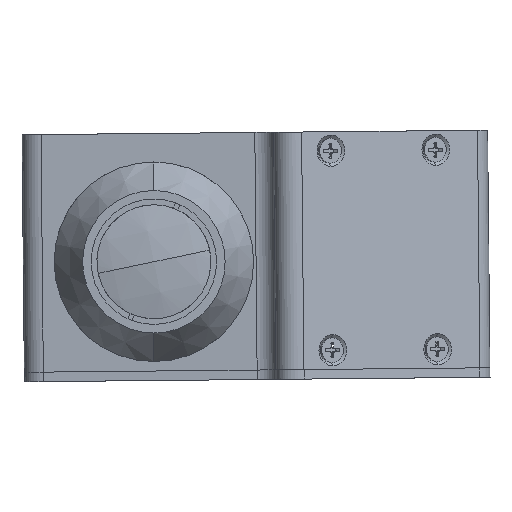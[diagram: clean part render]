
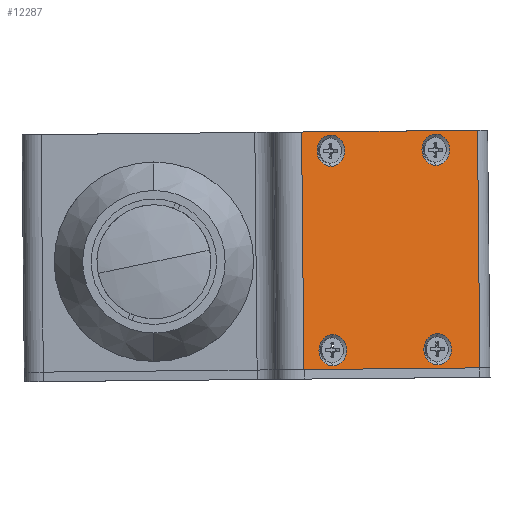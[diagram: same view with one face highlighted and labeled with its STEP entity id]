
A CAD part, left-side view. The second image highlights one B-rep face of the part: STEP entity #12287.
In plain terms, the highlighted planar face has unit normal (-0.883, -0.469, 0.005).
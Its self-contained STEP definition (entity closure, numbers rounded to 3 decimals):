
#24 = DIRECTION ( 'NONE',  ( 0., -0.01, -1. ) ) ;
#156 = AXIS2_PLACEMENT_3D ( 'NONE', #950, #9079, #2175 ) ;
#379 = EDGE_CURVE ( 'NONE', #4286, #14210, #3423, .T. ) ;
#450 = EDGE_CURVE ( 'NONE', #1688, #14210, #14163, .T. ) ;
#622 = FACE_BOUND ( 'NONE', #9861, .T. ) ;
#630 = DIRECTION ( 'NONE',  ( 0., 0.01, 1. ) ) ;
#642 = EDGE_CURVE ( 'NONE', #4286, #9308, #11275, .T. ) ;
#852 = CARTESIAN_POINT ( 'NONE',  ( 51.203, -37.657, -18.635 ) ) ;
#950 = CARTESIAN_POINT ( 'NONE',  ( 51.203, -37.25, 23.363 ) ) ;
#973 = CIRCLE ( 'NONE', #13200, 3.3 ) ;
#1013 = FACE_BOUND ( 'NONE', #12195, .T. ) ;
#1023 = EDGE_CURVE ( 'NONE', #10528, #7439, #8929, .T. ) ;
#1208 = EDGE_CURVE ( 'NONE', #5426, #13774, #6252, .T. ) ;
#1276 = EDGE_CURVE ( 'NONE', #10927, #10699, #13987, .T. ) ;
#1365 = EDGE_CURVE ( 'NONE', #9567, #7202, #12912, .T. ) ;
#1406 = CARTESIAN_POINT ( 'NONE',  ( 47.945, -31.569, -22.694 ) ) ;
#1486 = PLANE ( 'NONE',  #13159 ) ;
#1615 = CARTESIAN_POINT ( 'NONE',  ( 67.635, -68.112, 27.663 ) ) ;
#1688 = VERTEX_POINT ( 'NONE', #7551 ) ;
#1851 = ORIENTED_EDGE ( 'NONE', *, *, #379, .T. ) ;
#1959 = AXIS2_PLACEMENT_3D ( 'NONE', #11478, #4625, #12632 ) ;
#2079 = DIRECTION ( 'NONE',  ( 0., 0.01, 1. ) ) ;
#2134 = CIRCLE ( 'NONE', #1959, 3.3 ) ;
#2175 = DIRECTION ( 'NONE',  ( 0., 0.01, 1. ) ) ;
#2436 = ORIENTED_EDGE ( 'NONE', *, *, #13633, .F. ) ;
#2464 = VECTOR ( 'NONE', #5995, 1000. ) ;
#2910 = ORIENTED_EDGE ( 'NONE', *, *, #13111, .F. ) ;
#3137 = DIRECTION ( 'NONE',  ( -0.883, -0.469, 0.005 ) ) ;
#3150 = CARTESIAN_POINT ( 'NONE',  ( 62.94, -59.698, -15.121 ) ) ;
#3173 = ORIENTED_EDGE ( 'NONE', *, *, #13376, .F. ) ;
#3240 = CARTESIAN_POINT ( 'NONE',  ( 51.203, -37.282, 20.063 ) ) ;
#3338 = CARTESIAN_POINT ( 'NONE',  ( 51.203, -37.218, 26.663 ) ) ;
#3379 = DIRECTION ( 'NONE',  ( 0.469, -0.883, 0.009 ) ) ;
#3423 = LINE ( 'NONE', #3652, #6817 ) ;
#3652 = CARTESIAN_POINT ( 'NONE',  ( 67.635, -68.355, 2.664 ) ) ;
#3849 = FACE_OUTER_BOUND ( 'NONE', #5623, .T. ) ;
#3908 = DIRECTION ( 'NONE',  ( 0., 0.01, 1. ) ) ;
#3916 = DIRECTION ( 'NONE',  ( -0.883, -0.469, 0.005 ) ) ;
#4286 = VERTEX_POINT ( 'NONE', #14195 ) ;
#4625 = DIRECTION ( 'NONE',  ( -0.883, -0.469, 0.005 ) ) ;
#4785 = CARTESIAN_POINT ( 'NONE',  ( 47.945, -31.327, 2.304 ) ) ;
#4997 = CARTESIAN_POINT ( 'NONE',  ( 57.848, -49.95, 2.485 ) ) ;
#5018 = VECTOR ( 'NONE', #3379, 1000. ) ;
#5197 = DIRECTION ( 'NONE',  ( -0.883, -0.469, 0.005 ) ) ;
#5421 = ORIENTED_EDGE ( 'NONE', *, *, #1365, .F. ) ;
#5426 = VERTEX_POINT ( 'NONE', #11175 ) ;
#5623 = EDGE_LOOP ( 'NONE', ( #13858, #1851, #8030, #7123 ) ) ;
#5995 = DIRECTION ( 'NONE',  ( -0.469, 0.883, -0.009 ) ) ;
#6185 = DIRECTION ( 'NONE',  ( -0.883, -0.469, 0.005 ) ) ;
#6252 = CIRCLE ( 'NONE', #7335, 3.3 ) ;
#6556 = AXIS2_PLACEMENT_3D ( 'NONE', #9991, #3137, #11151 ) ;
#6817 = VECTOR ( 'NONE', #10477, 1000. ) ;
#6860 = AXIS2_PLACEMENT_3D ( 'NONE', #12059, #5197, #13217 ) ;
#6924 = ORIENTED_EDGE ( 'NONE', *, *, #1276, .F. ) ;
#7123 = ORIENTED_EDGE ( 'NONE', *, *, #13994, .T. ) ;
#7202 = VERTEX_POINT ( 'NONE', #9701 ) ;
#7218 = FACE_BOUND ( 'NONE', #7236, .T. ) ;
#7236 = EDGE_LOOP ( 'NONE', ( #13260, #2436 ) ) ;
#7335 = AXIS2_PLACEMENT_3D ( 'NONE', #13075, #6185, #14219 ) ;
#7439 = VERTEX_POINT ( 'NONE', #3240 ) ;
#7551 = CARTESIAN_POINT ( 'NONE',  ( 47.945, -31.084, 27.303 ) ) ;
#7637 = DIRECTION ( 'NONE',  ( -0.883, -0.469, 0.005 ) ) ;
#7892 = VECTOR ( 'NONE', #24, 1000. ) ;
#7917 = CARTESIAN_POINT ( 'NONE',  ( 70.876, -74.208, 27.722 ) ) ;
#8030 = ORIENTED_EDGE ( 'NONE', *, *, #450, .F. ) ;
#8090 = CIRCLE ( 'NONE', #10966, 3.3 ) ;
#8929 = CIRCLE ( 'NONE', #10777, 3.3 ) ;
#8991 = DIRECTION ( 'NONE',  ( -0.883, -0.469, 0.005 ) ) ;
#9079 = DIRECTION ( 'NONE',  ( -0.883, -0.469, 0.005 ) ) ;
#9308 = VERTEX_POINT ( 'NONE', #1406 ) ;
#9567 = VERTEX_POINT ( 'NONE', #13789 ) ;
#9701 = CARTESIAN_POINT ( 'NONE',  ( 62.94, -59.354, 20.277 ) ) ;
#9861 = EDGE_LOOP ( 'NONE', ( #14164, #10825 ) ) ;
#9991 = CARTESIAN_POINT ( 'NONE',  ( 62.94, -59.322, 23.577 ) ) ;
#10409 = CIRCLE ( 'NONE', #156, 3.3 ) ;
#10477 = DIRECTION ( 'NONE',  ( 0., 0.01, 1. ) ) ;
#10478 = EDGE_LOOP ( 'NONE', ( #6924, #3173 ) ) ;
#10528 = VERTEX_POINT ( 'NONE', #3338 ) ;
#10675 = CARTESIAN_POINT ( 'NONE',  ( 62.94, -59.762, -21.721 ) ) ;
#10699 = VERTEX_POINT ( 'NONE', #10675 ) ;
#10752 = CARTESIAN_POINT ( 'NONE',  ( 62.94, -59.73, -18.421 ) ) ;
#10777 = AXIS2_PLACEMENT_3D ( 'NONE', #14507, #7637, #630 ) ;
#10825 = ORIENTED_EDGE ( 'NONE', *, *, #13868, .F. ) ;
#10927 = VERTEX_POINT ( 'NONE', #3150 ) ;
#10932 = LINE ( 'NONE', #4785, #7892 ) ;
#10966 = AXIS2_PLACEMENT_3D ( 'NONE', #10752, #3916, #11913 ) ;
#11136 = CARTESIAN_POINT ( 'NONE',  ( 51.203, -37.69, -21.935 ) ) ;
#11151 = DIRECTION ( 'NONE',  ( 0., 0.01, 1. ) ) ;
#11175 = CARTESIAN_POINT ( 'NONE',  ( 51.203, -37.625, -15.335 ) ) ;
#11275 = LINE ( 'NONE', #12880, #2464 ) ;
#11478 = CARTESIAN_POINT ( 'NONE',  ( 62.94, -59.322, 23.577 ) ) ;
#11913 = DIRECTION ( 'NONE',  ( 0., 0.01, 1. ) ) ;
#12059 = CARTESIAN_POINT ( 'NONE',  ( 62.94, -59.73, -18.421 ) ) ;
#12195 = EDGE_LOOP ( 'NONE', ( #5421, #2910 ) ) ;
#12287 = ADVANCED_FACE ( 'NONE', ( #1013, #12621, #7218, #622, #3849 ), #1486, .T. ) ;
#12621 = FACE_BOUND ( 'NONE', #10478, .T. ) ;
#12632 = DIRECTION ( 'NONE',  ( 0., 0.01, 1. ) ) ;
#12880 = CARTESIAN_POINT ( 'NONE',  ( 70.876, -74.693, -22.276 ) ) ;
#12912 = CIRCLE ( 'NONE', #6556, 3.3 ) ;
#13014 = DIRECTION ( 'NONE',  ( -0.883, -0.469, 0.005 ) ) ;
#13075 = CARTESIAN_POINT ( 'NONE',  ( 51.203, -37.657, -18.635 ) ) ;
#13111 = EDGE_CURVE ( 'NONE', #7202, #9567, #2134, .T. ) ;
#13159 = AXIS2_PLACEMENT_3D ( 'NONE', #4997, #13014, #3908 ) ;
#13200 = AXIS2_PLACEMENT_3D ( 'NONE', #852, #8991, #2079 ) ;
#13217 = DIRECTION ( 'NONE',  ( 0., 0.01, 1. ) ) ;
#13260 = ORIENTED_EDGE ( 'NONE', *, *, #1208, .F. ) ;
#13376 = EDGE_CURVE ( 'NONE', #10699, #10927, #8090, .T. ) ;
#13633 = EDGE_CURVE ( 'NONE', #13774, #5426, #973, .T. ) ;
#13774 = VERTEX_POINT ( 'NONE', #11136 ) ;
#13789 = CARTESIAN_POINT ( 'NONE',  ( 62.94, -59.29, 26.877 ) ) ;
#13858 = ORIENTED_EDGE ( 'NONE', *, *, #642, .F. ) ;
#13868 = EDGE_CURVE ( 'NONE', #7439, #10528, #10409, .T. ) ;
#13987 = CIRCLE ( 'NONE', #6860, 3.3 ) ;
#13994 = EDGE_CURVE ( 'NONE', #1688, #9308, #10932, .T. ) ;
#14163 = LINE ( 'NONE', #7917, #5018 ) ;
#14164 = ORIENTED_EDGE ( 'NONE', *, *, #1023, .F. ) ;
#14195 = CARTESIAN_POINT ( 'NONE',  ( 67.635, -68.598, -22.335 ) ) ;
#14210 = VERTEX_POINT ( 'NONE', #1615 ) ;
#14219 = DIRECTION ( 'NONE',  ( 0., 0.01, 1. ) ) ;
#14507 = CARTESIAN_POINT ( 'NONE',  ( 51.203, -37.25, 23.363 ) ) ;
